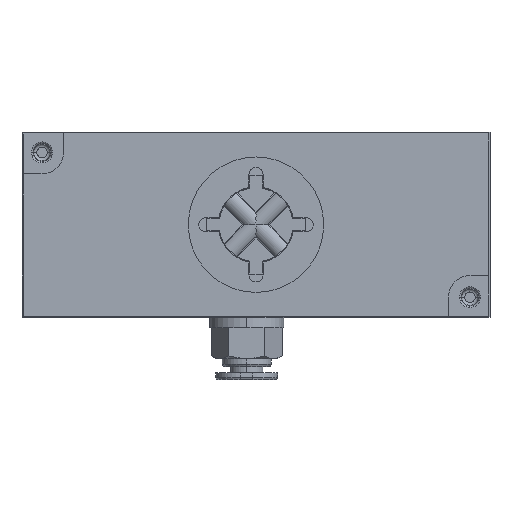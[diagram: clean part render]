
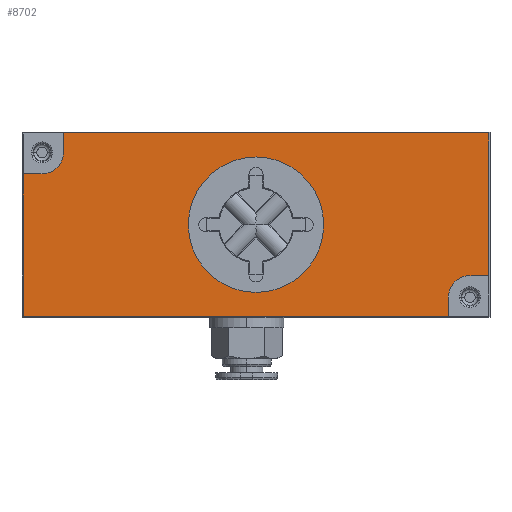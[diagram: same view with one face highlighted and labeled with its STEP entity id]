
A CAD part, top view. The second image highlights one B-rep face of the part: STEP entity #8702.
In plain terms, the highlighted planar face has unit normal (0, 0, 1) as drawn and (0, 0, -1) by its records, which use the part's own axes.
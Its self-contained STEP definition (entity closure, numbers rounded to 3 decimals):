
#7679=DIRECTION('',(1.,0.,0.));
#7680=VECTOR('',#7679,3.05);
#7681=CARTESIAN_POINT('',(-37.8,-8.25,0.));
#7682=LINE('737',#7681,#7680);
#7686=CARTESIAN_POINT('',(-34.75,-11.75,0.));
#7687=DIRECTION('',(0.,0.,-1.));
#7688=DIRECTION('',(0.,1.,0.));
#7689=AXIS2_PLACEMENT_3D('',#7686,#7687,#7688);
#7694=DIRECTION('',(0.,1.,0.));
#7695=VECTOR('',#7694,3.15);
#7696=CARTESIAN_POINT('',(-31.25,-14.9,0.));
#7697=LINE('739',#7696,#7695);
#7701=DIRECTION('',(1.,0.,0.));
#7702=VECTOR('',#7701,69.05);
#7703=CARTESIAN_POINT('',(-31.25,-14.9,0.));
#7704=LINE('747',#7703,#7702);
#7708=DIRECTION('',(0.,1.,0.));
#7709=VECTOR('',#7708,23.15);
#7710=CARTESIAN_POINT('',(37.8,-14.9,0.));
#7711=LINE('804',#7710,#7709);
#7715=DIRECTION('',(-1.,0.,0.));
#7716=VECTOR('',#7715,3.05);
#7717=CARTESIAN_POINT('',(37.8,8.25,0.));
#7718=LINE('795',#7717,#7716);
#7722=CARTESIAN_POINT('',(34.75,11.75,0.));
#7723=DIRECTION('',(0.,0.,-1.));
#7724=DIRECTION('',(0.,-1.,0.));
#7725=AXIS2_PLACEMENT_3D('',#7722,#7723,#7724);
#7730=DIRECTION('',(0.,-1.,0.));
#7731=VECTOR('',#7730,3.15);
#7732=CARTESIAN_POINT('',(31.25,14.9,0.));
#7733=LINE('797',#7732,#7731);
#7737=DIRECTION('',(-1.,0.,0.));
#7738=VECTOR('',#7737,69.05);
#7739=CARTESIAN_POINT('',(31.25,14.9,0.));
#7740=LINE('805',#7739,#7738);
#7744=DIRECTION('',(0.,-1.,0.));
#7745=VECTOR('',#7744,23.15);
#7746=CARTESIAN_POINT('',(-37.8,14.9,0.));
#7747=LINE('746',#7746,#7745);
#7751=CARTESIAN_POINT('',(0.,0.,0.));
#7752=DIRECTION('',(0.,0.,-1.));
#7753=DIRECTION('',(0.,1.,0.));
#7754=AXIS2_PLACEMENT_3D('',#7751,#7752,#7753);
#7759=CARTESIAN_POINT('',(0.,0.,0.));
#7760=DIRECTION('',(0.,0.,-1.));
#7761=DIRECTION('',(0.,-1.,0.));
#7762=AXIS2_PLACEMENT_3D('',#7759,#7760,#7761);
#8525=CARTESIAN_POINT('',(-37.8,14.9,0.));
#8526=VERTEX_POINT('',#8525);
#8527=CARTESIAN_POINT('',(37.8,-14.9,0.));
#8528=VERTEX_POINT('',#8527);
#8537=CARTESIAN_POINT('',(-37.8,-8.25,0.));
#8538=CARTESIAN_POINT('',(-34.75,-8.25,0.));
#8539=VERTEX_POINT('',#8537);
#8540=VERTEX_POINT('',#8538);
#8541=CARTESIAN_POINT('',(-31.25,-11.75,0.));
#8542=VERTEX_POINT('',#8541);
#8543=CARTESIAN_POINT('',(-31.25,-14.9,0.));
#8544=VERTEX_POINT('',#8543);
#8563=CARTESIAN_POINT('',(37.8,8.25,0.));
#8564=CARTESIAN_POINT('',(34.75,8.25,0.));
#8565=VERTEX_POINT('',#8563);
#8566=VERTEX_POINT('',#8564);
#8567=CARTESIAN_POINT('',(31.25,11.75,0.));
#8568=VERTEX_POINT('',#8567);
#8569=CARTESIAN_POINT('',(31.25,14.9,0.));
#8570=VERTEX_POINT('',#8569);
#8585=CARTESIAN_POINT('',(0.,11.,0.));
#8586=CARTESIAN_POINT('',(0.,-11.,0.));
#8587=VERTEX_POINT('',#8585);
#8588=VERTEX_POINT('',#8586);
#8669=CARTESIAN_POINT('',(0.,0.,0.));
#8670=DIRECTION('',(0.,0.,1.));
#8671=DIRECTION('',(1.,0.,0.));
#8672=AXIS2_PLACEMENT_3D('',#8669,#8670,#8671);
#8673=PLANE('49',#8672);
#8675=ORIENTED_EDGE('737',*,*,#8674,.T.);
#8677=ORIENTED_EDGE('738',*,*,#8676,.T.);
#8679=ORIENTED_EDGE('739',*,*,#8678,.F.);
#8681=ORIENTED_EDGE('747',*,*,#8680,.T.);
#8683=ORIENTED_EDGE('804',*,*,#8682,.T.);
#8685=ORIENTED_EDGE('795',*,*,#8684,.T.);
#8687=ORIENTED_EDGE('796',*,*,#8686,.T.);
#8689=ORIENTED_EDGE('797',*,*,#8688,.F.);
#8691=ORIENTED_EDGE('805',*,*,#8690,.T.);
#8693=ORIENTED_EDGE('746',*,*,#8692,.T.);
#8694=EDGE_LOOP('49',(#8675,#8677,#8679,#8681,#8683,#8685,#8687,#8689,#8691,
#8693));
#8695=FACE_OUTER_BOUND('49',#8694,.F.);
#8697=ORIENTED_EDGE('1936',*,*,#8696,.T.);
#8699=ORIENTED_EDGE('1937',*,*,#8698,.T.);
#8700=EDGE_LOOP('49',(#8697,#8699));
#8701=FACE_BOUND('49',#8700,.F.);
#8702=ADVANCED_FACE('49',(#8695,#8701),#8673,.F.);
#7690=CIRCLE('738',#7689,3.5);
#7726=CIRCLE('796',#7725,3.5);
#7755=CIRCLE('1936',#7754,11.);
#7763=CIRCLE('1937',#7762,11.);
#8674=EDGE_CURVE('737',#8539,#8540,#7682,.T.);
#8676=EDGE_CURVE('738',#8540,#8542,#7690,.T.);
#8678=EDGE_CURVE('739',#8544,#8542,#7697,.T.);
#8680=EDGE_CURVE('747',#8544,#8528,#7704,.T.);
#8682=EDGE_CURVE('804',#8528,#8565,#7711,.T.);
#8684=EDGE_CURVE('795',#8565,#8566,#7718,.T.);
#8686=EDGE_CURVE('796',#8566,#8568,#7726,.T.);
#8688=EDGE_CURVE('797',#8570,#8568,#7733,.T.);
#8690=EDGE_CURVE('805',#8570,#8526,#7740,.T.);
#8692=EDGE_CURVE('746',#8526,#8539,#7747,.T.);
#8696=EDGE_CURVE('1936',#8587,#8588,#7755,.T.);
#8698=EDGE_CURVE('1937',#8588,#8587,#7763,.T.);
